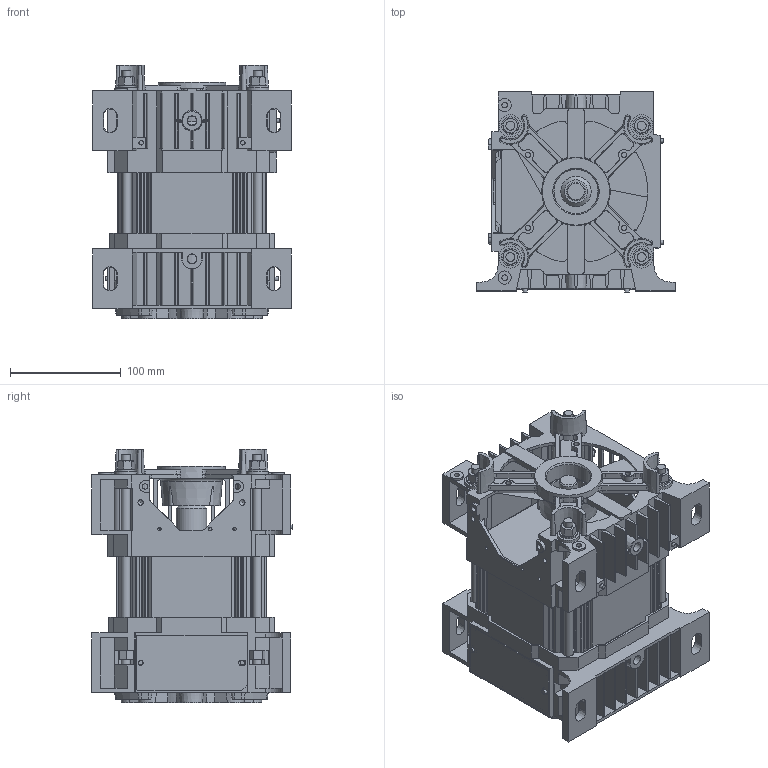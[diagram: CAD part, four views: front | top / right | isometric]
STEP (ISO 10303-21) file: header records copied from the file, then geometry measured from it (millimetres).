
FILE_DESCRIPTION(/* description */ ('Motore Tipo S31 Fl.82.55 F19-H65 NO Vol. NO Piedi'),/* implementation_level */ '2;1');
FILE_NAME(/* name */ 'Y:\ServerTecnico\Mockup Motori x Sito Elmo\Mockup Tipo S31 Size 3 FL82 F14-H65 NO Volano.stp',/* time_stamp */ '2016-10-06T11:22:23+02:00',/* author */ ('aparmini'),/* organization */ (''),/* preprocessor_version */ 'ST-DEVELOPER v16.5',/* originating_system */ 'Autodesk Inventor 2017',/* authorisation */ '');
FILE_SCHEMA (('AUTOMOTIVE_DESIGN { 1 0 10303 214 3 1 1 }'));
Length unit declared in the file: millimetre
Products named in the file (8): Mockup Tipo S31 Size 3 FL82 F14-H65 NO Volano; Mockup CP3XD040N; CA3SD082W; Mockup Statore Size 3 - F14-H65 NO Volano; TGS10; TI08ML190; UNI 5587 - M8; DIN 125-2 - B 8,4
Assembly tree (20 placements, depth 2):
  Mockup Tipo S31 Size 3 FL82 F14-H65 NO Volano
    Mockup CP3XD040N
    CA3SD082W
    Mockup Statore Size 3 - F14-H65 NO Volano
    TGS10
    TI08ML190  x4
    UNI 5587 - M8  x8
    DIN 125-2 - B 8,4  x4
Bounding box: 180 x 181 x 229 mm (x, y, z)
Volume: 1954894.7 mm3; surface area: 454395.1 mm2
Topology: 20 solids, 20 shells, 1684 faces, 4733 edges, 3088 vertices
Faces by surface type: plane 973, cone 375, cylinder 289, bspline 38, torus 9
Full cylindrical faces by diameter (mm): 3.2 x3, 4 x8, 4.917 x4, 5 x2, 6.647 x8, 8 x4, 8.4 x4, 12 x2, 14 x1, 16 x4, 17 x1, 20 x4, 21 x1, 27.5 x1, 29 x1, 40 x2, 40.1 x1, 42.5 x1, 46 x1, 82.55 x1
Entity records: 50771 total; most frequent: CARTESIAN_POINT 10419, ORIENTED_EDGE 8476, DIRECTION 8440, EDGE_CURVE 4238, AXIS2_PLACEMENT_3D 2900, VERTEX_POINT 2841, LINE 2640, VECTOR 2640
